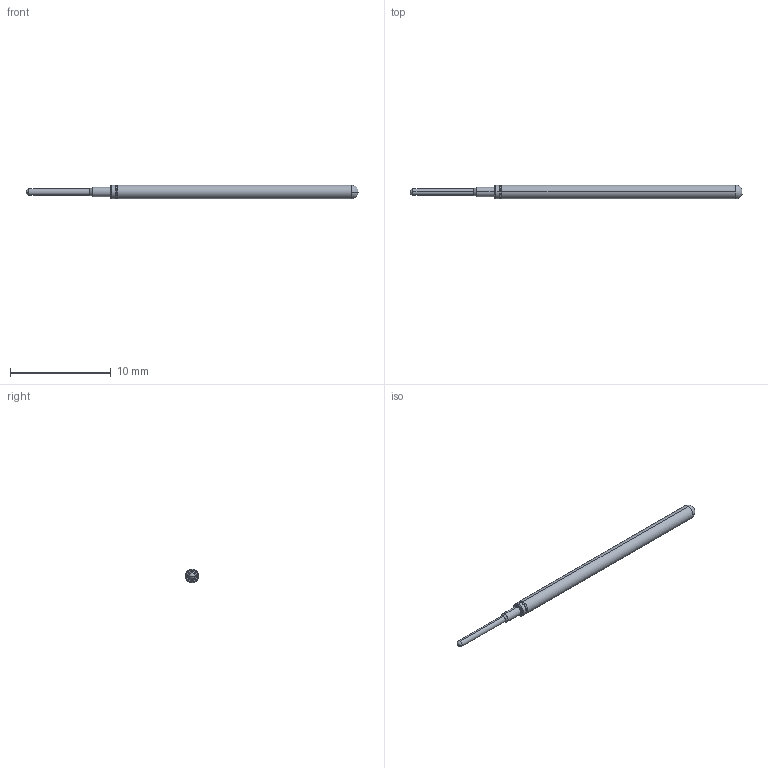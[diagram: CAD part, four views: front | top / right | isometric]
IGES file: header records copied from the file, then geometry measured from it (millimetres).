
Start section: SolidWorks IGES file using analytic representation for surfaces
Global section: file name: Z:\probe solid model mockups\Solidworks models\POGO-25 IGS files\POGO-25J.IGS; native system: SolidWorks 2006 by SolidWorks Corporation; preprocessor: SolidWorks 2006 by SolidWorks Corporation; author: tsakatani; date: 071214.094906; units: inch
Bounding box: 33.02 x 1.37 x 1.37 mm (x, y, z)
Surface area: 125.6 mm2 (no closed solid volume)
Topology: 0 solids, 0 shells, 24 faces, 144 edges, 142 vertices
Faces by surface type: revolution 18, bspline 6
